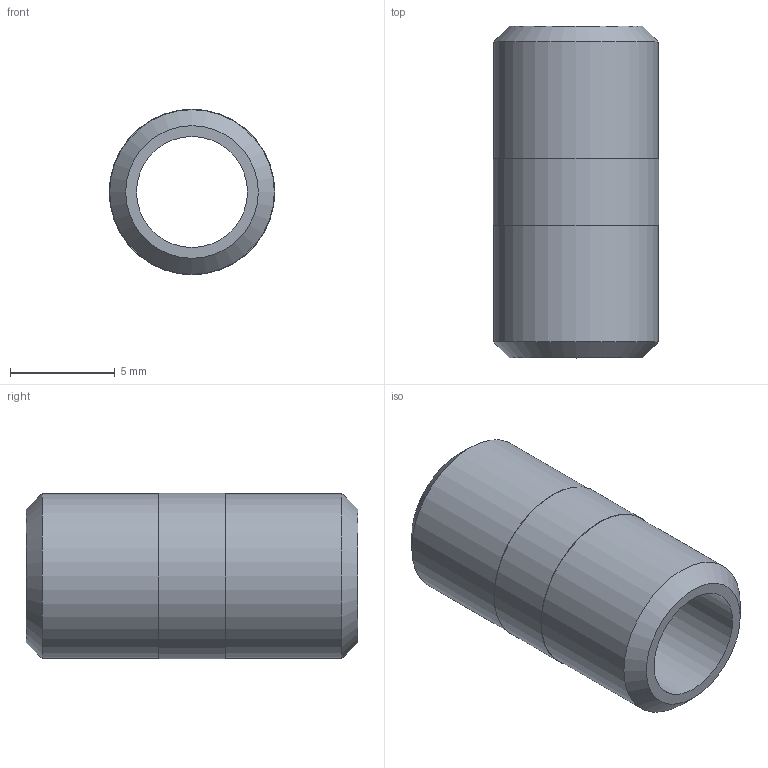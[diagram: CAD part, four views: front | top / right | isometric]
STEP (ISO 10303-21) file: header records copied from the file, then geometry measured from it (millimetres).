
FILE_DESCRIPTION(/* description */ (''),/* implementation_level */ '2;1');
FILE_NAME(/* name */ 'C:/Users/drich/Desktop/BPN16-CLOSE v1.step',/* time_stamp */ '2020-01-03T14:44:01-06:00',/* author */ (''),/* organization */ (''),/* preprocessor_version */ 'ST-DEVELOPER v18',/* originating_system */ 'Autodesk Translation Framework v8.12.0.6',/* authorisation */ '');
FILE_SCHEMA (('AUTOMOTIVE_DESIGN { 1 0 10303 214 3 1 1 }'));
Length unit declared in the file: inch
Products named in the file (1): BPN16-CLOSE
Bounding box: 7.92 x 15.88 x 7.92 mm (x, y, z)
Volume: 410.2 mm3; surface area: 688.7 mm2
Topology: 1 solids, 1 shells, 10 faces, 24 edges, 18 vertices
Faces by surface type: cylinder 4, plane 4, cone 2
Full cylindrical faces by diameter (mm): 5.309 x1, 7.874 x2, 7.925 x1
Entity records: 360 total; most frequent: DIRECTION 64, CARTESIAN_POINT 53, ORIENTED_EDGE 48, AXIS2_PLACEMENT_3D 29, EDGE_CURVE 24, CIRCLE 18, VERTEX_POINT 18, EDGE_LOOP 14
